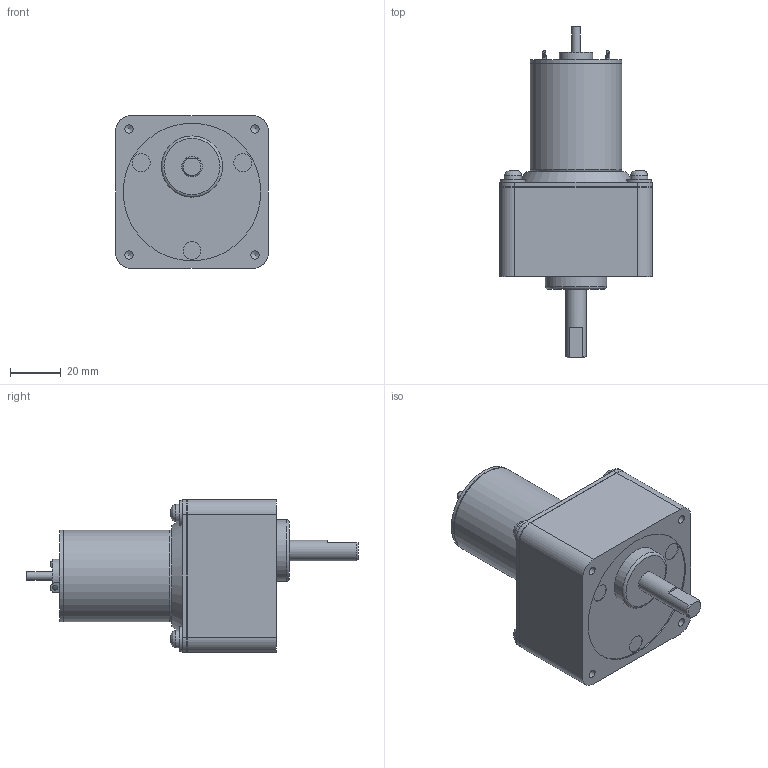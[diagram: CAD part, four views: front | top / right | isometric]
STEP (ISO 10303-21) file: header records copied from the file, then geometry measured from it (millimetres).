
FILE_DESCRIPTION((''),'2;1');
FILE_NAME('C:\Documents and Settings\SSEGAWA\デスクトップ\TP-3644L-CM-3.stp','2013-07-22T17:04:27',('SSEGAWA'),(''),'Autodesk Inventor 2010','Autodesk Inventor 2010','');
FILE_SCHEMA(('CONFIG_CONTROL_DESIGN'));
Length unit declared in the file: millimetre
Products named in the file (1): tp_3644l_cm-3_Shrinkwrap_1
Bounding box: 60 x 130.3 x 60 mm (x, y, z)
Volume: 185988.7 mm3; surface area: 23388.9 mm2
Topology: 1 solids, 4 shells, 111 faces, 237 edges, 157 vertices
Faces by surface type: plane 51, cylinder 35, bspline 20, torus 3, cone 2
Full cylindrical faces by diameter (mm): 3 x1, 3.175 x1, 3.5 x1, 6.8 x4, 7 x3, 8 x1, 9.8 x4, 13 x1, 24 x1, 35.6 x1, 36 x2, 54 x1
Entity records: 3142 total; most frequent: CARTESIAN_POINT 875, DIRECTION 454, ORIENTED_EDGE 346, AXIS2_PLACEMENT_3D 191, EDGE_LOOP 183, EDGE_CURVE 173, VERTEX_POINT 138, STYLED_ITEM 112
